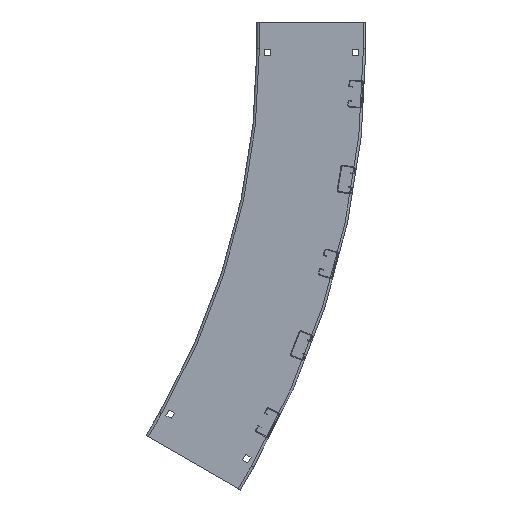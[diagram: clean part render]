
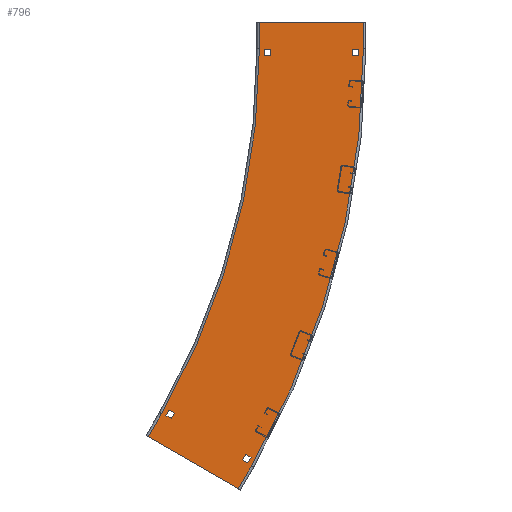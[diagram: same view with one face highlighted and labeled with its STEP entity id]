
A CAD part, left-side view. The second image highlights one B-rep face of the part: STEP entity #796.
In plain terms, the highlighted planar face has unit normal (-1, 0, 0).
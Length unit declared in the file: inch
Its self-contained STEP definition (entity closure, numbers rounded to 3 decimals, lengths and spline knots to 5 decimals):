
#1=DIRECTION('',(0.,-0.866,-0.5));
#2=VECTOR('',#1,6.858);
#3=CARTESIAN_POINT('',(0.,46.77372,29.02554));
#4=LINE('',#3,#2);
#5=DIRECTION('',(0.,1.,0.));
#6=VECTOR('',#5,6.858);
#7=CARTESIAN_POINT('',(0.,48.162,-1.75));
#8=LINE('',#7,#6);
#9=DIRECTION('',(0.,0.,-1.));
#10=VECTOR('',#9,0.41);
#11=CARTESIAN_POINT('',(0.,54.7135,0.455));
#12=LINE('',#11,#10);
#13=DIRECTION('',(0.,-1.,0.));
#14=VECTOR('',#13,0.41);
#15=CARTESIAN_POINT('',(0.,54.7135,0.045));
#16=LINE('',#15,#14);
#17=DIRECTION('',(0.,0.,1.));
#18=VECTOR('',#17,0.41);
#19=CARTESIAN_POINT('',(0.,54.3035,0.045));
#20=LINE('',#19,#18);
#21=DIRECTION('',(0.,1.,0.));
#22=VECTOR('',#21,0.41);
#23=CARTESIAN_POINT('',(0.,54.3035,0.455));
#24=LINE('',#23,#22);
#25=DIRECTION('',(0.,1.,0.));
#26=VECTOR('',#25,0.41);
#27=CARTESIAN_POINT('',(0.,48.4685,0.455));
#28=LINE('',#27,#26);
#29=DIRECTION('',(0.,0.,-1.));
#30=VECTOR('',#29,0.41);
#31=CARTESIAN_POINT('',(0.,48.8785,0.455));
#32=LINE('',#31,#30);
#33=DIRECTION('',(0.,-1.,0.));
#34=VECTOR('',#33,0.41);
#35=CARTESIAN_POINT('',(0.,48.8785,0.045));
#36=LINE('',#35,#34);
#37=DIRECTION('',(0.,0.,1.));
#38=VECTOR('',#37,0.41);
#39=CARTESIAN_POINT('',(0.,48.4685,0.045));
#40=LINE('',#39,#38);
#41=DIRECTION('',(0.,-0.866,-0.5));
#42=VECTOR('',#41,0.41);
#43=CARTESIAN_POINT('',(0.,42.55698,24.0449));
#44=LINE('',#43,#42);
#45=DIRECTION('',(0.,-0.5,0.866));
#46=VECTOR('',#45,0.41);
#47=CARTESIAN_POINT('',(0.,42.20191,23.8399));
#48=LINE('',#47,#46);
#49=DIRECTION('',(0.,0.866,0.5));
#50=VECTOR('',#49,0.41);
#51=CARTESIAN_POINT('',(0.,41.99691,24.19497));
#52=LINE('',#51,#50);
#53=DIRECTION('',(0.,0.5,-0.866));
#54=VECTOR('',#53,0.41);
#55=CARTESIAN_POINT('',(0.,42.35198,24.39997));
#56=LINE('',#55,#54);
#57=DIRECTION('',(0.,0.866,0.5));
#58=VECTOR('',#57,0.41);
#59=CARTESIAN_POINT('',(0.,47.05023,27.1125));
#60=LINE('',#59,#58);
#61=DIRECTION('',(0.,0.5,-0.866));
#62=VECTOR('',#61,0.41);
#63=CARTESIAN_POINT('',(0.,47.4053,27.3175));
#64=LINE('',#63,#62);
#65=DIRECTION('',(0.,-0.866,-0.5));
#66=VECTOR('',#65,0.41);
#67=CARTESIAN_POINT('',(0.,47.6103,26.96243));
#68=LINE('',#67,#66);
#69=DIRECTION('',(0.,-0.5,0.866));
#70=VECTOR('',#69,0.41);
#71=CARTESIAN_POINT('',(0.,47.25523,26.75743));
#72=LINE('',#71,#70);
#73=DIRECTION('',(0.,0.,1.));
#74=VECTOR('',#73,1.75);
#75=CARTESIAN_POINT('',(0.,55.02,-1.75));
#76=LINE('',#75,#74);
#114=DIRECTION('',(0.,0.,-1.));
#115=VECTOR('',#114,1.75);
#116=CARTESIAN_POINT('',(0.,48.162,0.));
#117=LINE('',#116,#115);
#123=CARTESIAN_POINT('',(0.,0.,0.));
#124=DIRECTION('',(-1.,0.,0.));
#125=DIRECTION('',(0.,0.866,0.5));
#126=AXIS2_PLACEMENT_3D('',#123,#124,#125);
#128=DIRECTION('',(0.,0.5,-0.866));
#129=VECTOR('',#128,1.75);
#130=CARTESIAN_POINT('',(0.,40.83452,25.59654));
#131=LINE('',#130,#129);
#169=DIRECTION('',(0.,-0.5,0.866));
#170=VECTOR('',#169,1.75);
#171=CARTESIAN_POINT('',(0.,47.64872,27.51));
#172=LINE('',#171,#170);
#178=CARTESIAN_POINT('',(0.,0.,0.));
#179=DIRECTION('',(1.,0.,0.));
#180=DIRECTION('',(0.,1.,0.));
#181=AXIS2_PLACEMENT_3D('',#178,#179,#180);
#573=CARTESIAN_POINT('',(0.,40.83452,25.59654));
#575=VERTEX_POINT('',#573);
#579=CARTESIAN_POINT('',(0.,41.70952,24.081));
#581=VERTEX_POINT('',#579);
#585=CARTESIAN_POINT('',(0.,48.162,0.));
#587=VERTEX_POINT('',#585);
#591=CARTESIAN_POINT('',(0.,48.162,-1.75));
#593=VERTEX_POINT('',#591);
#621=CARTESIAN_POINT('',(0.,55.02,-1.75));
#622=VERTEX_POINT('',#621);
#623=CARTESIAN_POINT('',(0.,46.77372,29.02554));
#624=VERTEX_POINT('',#623);
#629=CARTESIAN_POINT('',(0.,55.02,0.));
#631=VERTEX_POINT('',#629);
#635=CARTESIAN_POINT('',(0.,47.64872,27.51));
#637=VERTEX_POINT('',#635);
#669=CARTESIAN_POINT('',(0.,54.7135,0.455));
#670=CARTESIAN_POINT('',(0.,54.7135,0.045));
#671=VERTEX_POINT('',#669);
#672=VERTEX_POINT('',#670);
#673=CARTESIAN_POINT('',(0.,54.3035,0.045));
#674=VERTEX_POINT('',#673);
#675=CARTESIAN_POINT('',(0.,54.3035,0.455));
#676=VERTEX_POINT('',#675);
#677=CARTESIAN_POINT('',(0.,48.4685,0.455));
#678=CARTESIAN_POINT('',(0.,48.8785,0.455));
#679=VERTEX_POINT('',#677);
#680=VERTEX_POINT('',#678);
#681=CARTESIAN_POINT('',(0.,48.8785,0.045));
#682=VERTEX_POINT('',#681);
#683=CARTESIAN_POINT('',(0.,48.4685,0.045));
#684=VERTEX_POINT('',#683);
#701=CARTESIAN_POINT('',(0.,42.55698,24.0449));
#702=CARTESIAN_POINT('',(0.,42.20191,23.8399));
#703=VERTEX_POINT('',#701);
#704=VERTEX_POINT('',#702);
#705=CARTESIAN_POINT('',(0.,41.99691,24.19497));
#706=VERTEX_POINT('',#705);
#707=CARTESIAN_POINT('',(0.,42.35198,24.39997));
#708=VERTEX_POINT('',#707);
#709=CARTESIAN_POINT('',(0.,47.05023,27.1125));
#710=CARTESIAN_POINT('',(0.,47.4053,27.3175));
#711=VERTEX_POINT('',#709);
#712=VERTEX_POINT('',#710);
#713=CARTESIAN_POINT('',(0.,47.6103,26.96243));
#714=VERTEX_POINT('',#713);
#715=CARTESIAN_POINT('',(0.,47.25523,26.75743));
#716=VERTEX_POINT('',#715);
#733=CARTESIAN_POINT('',(0.,0.,0.));
#734=DIRECTION('',(1.,0.,0.));
#735=DIRECTION('',(0.,0.,-1.));
#736=AXIS2_PLACEMENT_3D('',#733,#734,#735);
#737=PLANE('',#736);
#739=ORIENTED_EDGE('',*,*,#738,.T.);
#741=ORIENTED_EDGE('',*,*,#740,.T.);
#743=ORIENTED_EDGE('',*,*,#742,.T.);
#745=ORIENTED_EDGE('',*,*,#744,.T.);
#747=ORIENTED_EDGE('',*,*,#746,.T.);
#749=ORIENTED_EDGE('',*,*,#748,.T.);
#751=ORIENTED_EDGE('',*,*,#750,.T.);
#753=ORIENTED_EDGE('',*,*,#752,.T.);
#754=EDGE_LOOP('',(#739,#741,#743,#745,#747,#749,#751,#753));
#755=FACE_OUTER_BOUND('',#754,.F.);
#757=ORIENTED_EDGE('',*,*,#756,.T.);
#759=ORIENTED_EDGE('',*,*,#758,.T.);
#761=ORIENTED_EDGE('',*,*,#760,.T.);
#763=ORIENTED_EDGE('',*,*,#762,.T.);
#764=EDGE_LOOP('',(#757,#759,#761,#763));
#765=FACE_BOUND('',#764,.F.);
#767=ORIENTED_EDGE('',*,*,#766,.T.);
#769=ORIENTED_EDGE('',*,*,#768,.T.);
#771=ORIENTED_EDGE('',*,*,#770,.T.);
#773=ORIENTED_EDGE('',*,*,#772,.T.);
#774=EDGE_LOOP('',(#767,#769,#771,#773));
#775=FACE_BOUND('',#774,.F.);
#777=ORIENTED_EDGE('',*,*,#776,.T.);
#779=ORIENTED_EDGE('',*,*,#778,.T.);
#781=ORIENTED_EDGE('',*,*,#780,.T.);
#783=ORIENTED_EDGE('',*,*,#782,.T.);
#784=EDGE_LOOP('',(#777,#779,#781,#783));
#785=FACE_BOUND('',#784,.F.);
#787=ORIENTED_EDGE('',*,*,#786,.T.);
#789=ORIENTED_EDGE('',*,*,#788,.T.);
#791=ORIENTED_EDGE('',*,*,#790,.T.);
#793=ORIENTED_EDGE('',*,*,#792,.T.);
#794=EDGE_LOOP('',(#787,#789,#791,#793));
#795=FACE_BOUND('',#794,.F.);
#796=ADVANCED_FACE('',(#755,#765,#775,#785,#795),#737,.F.);
#127=CIRCLE('',#126,48.162);
#182=CIRCLE('',#181,55.02);
#738=EDGE_CURVE('',#622,#631,#76,.T.);
#740=EDGE_CURVE('',#631,#637,#182,.T.);
#742=EDGE_CURVE('',#637,#624,#172,.T.);
#744=EDGE_CURVE('',#624,#575,#4,.T.);
#746=EDGE_CURVE('',#575,#581,#131,.T.);
#748=EDGE_CURVE('',#581,#587,#127,.T.);
#750=EDGE_CURVE('',#587,#593,#117,.T.);
#752=EDGE_CURVE('',#593,#622,#8,.T.);
#756=EDGE_CURVE('',#671,#672,#12,.T.);
#758=EDGE_CURVE('',#672,#674,#16,.T.);
#760=EDGE_CURVE('',#674,#676,#20,.T.);
#762=EDGE_CURVE('',#676,#671,#24,.T.);
#766=EDGE_CURVE('',#679,#680,#28,.T.);
#768=EDGE_CURVE('',#680,#682,#32,.T.);
#770=EDGE_CURVE('',#682,#684,#36,.T.);
#772=EDGE_CURVE('',#684,#679,#40,.T.);
#776=EDGE_CURVE('',#703,#704,#44,.T.);
#778=EDGE_CURVE('',#704,#706,#48,.T.);
#780=EDGE_CURVE('',#706,#708,#52,.T.);
#782=EDGE_CURVE('',#708,#703,#56,.T.);
#786=EDGE_CURVE('',#711,#712,#60,.T.);
#788=EDGE_CURVE('',#712,#714,#64,.T.);
#790=EDGE_CURVE('',#714,#716,#68,.T.);
#792=EDGE_CURVE('',#716,#711,#72,.T.);
